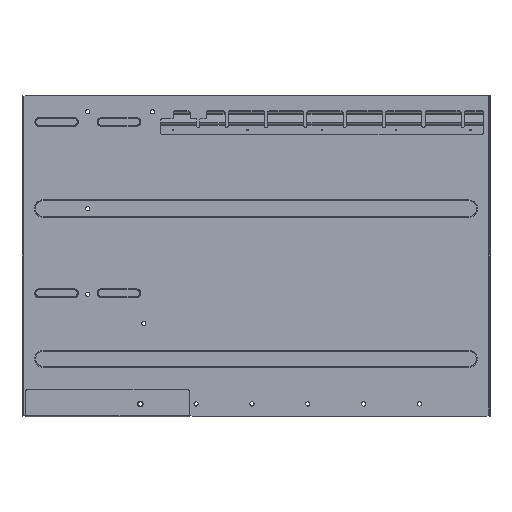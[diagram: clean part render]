
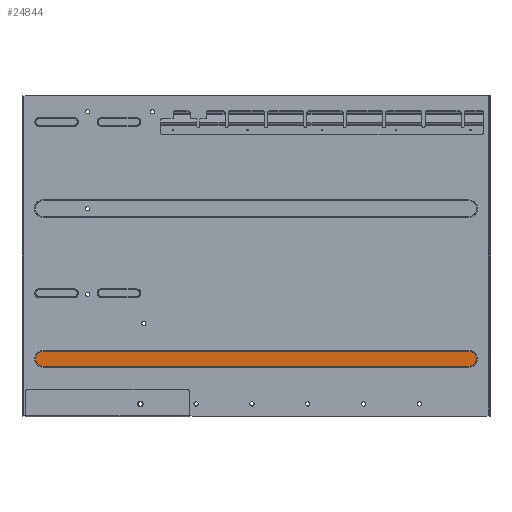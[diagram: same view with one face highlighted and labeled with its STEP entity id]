
A CAD part, front view. The second image highlights one B-rep face of the part: STEP entity #24844.
In plain terms, the highlighted planar face has unit normal (0, -1, 0).
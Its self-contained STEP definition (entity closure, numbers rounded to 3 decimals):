
#15120=CARTESIAN_POINT('',(-200.05,42.5,-247.56));
#15121=DIRECTION('',(0.,1.,0.));
#15122=DIRECTION('',(0.,0.,-1.));
#15123=AXIS2_PLACEMENT_3D('',#15120,#15121,#15122);
#15125=CARTESIAN_POINT('',(-200.127,42.5,-240.388));
#15126=CARTESIAN_POINT('',(-200.101,42.5,-240.388));
#15127=CARTESIAN_POINT('',(-200.076,42.5,
-240.388));
#15128=CARTESIAN_POINT('',(-200.05,42.5,-240.388));
#15130=DIRECTION('',(1.,0.,0.));
#15131=VECTOR('',#15130,400.1);
#15132=CARTESIAN_POINT('',(-200.05,42.5,-240.388));
#15133=LINE('',#15132,#15131);
#15134=CARTESIAN_POINT('',(200.05,42.5,-247.56));
#15135=DIRECTION('',(0.,1.,0.));
#15136=DIRECTION('',(0.,0.,1.));
#15137=AXIS2_PLACEMENT_3D('',#15134,#15135,#15136);
#15139=CARTESIAN_POINT('',(200.127,42.5,-254.732));
#15140=CARTESIAN_POINT('',(200.101,42.5,-254.732));
#15141=CARTESIAN_POINT('',(200.076,42.5,
-254.732));
#15142=CARTESIAN_POINT('',(200.05,42.5,-254.732));
#15144=DIRECTION('',(-1.,0.,0.));
#15145=VECTOR('',#15144,400.1);
#15146=CARTESIAN_POINT('',(200.05,42.5,-254.732));
#15147=LINE('',#15146,#15145);
#17374=CARTESIAN_POINT('',(-200.05,42.5,-240.388));
#17375=CARTESIAN_POINT('',(200.05,42.5,-240.388));
#17376=VERTEX_POINT('',#17374);
#17377=VERTEX_POINT('',#17375);
#17378=CARTESIAN_POINT('',(200.05,42.5,-254.732));
#17380=VERTEX_POINT('',#17378);
#17382=VERTEX_POINT('',#15139);
#17391=CARTESIAN_POINT('',(-200.05,42.5,-254.732));
#17392=VERTEX_POINT('',#17391);
#17393=VERTEX_POINT('',#15125);
#24831=CARTESIAN_POINT('',(0.,42.5,-247.56));
#24832=DIRECTION('',(0.,1.,0.));
#24833=DIRECTION('',(-1.,0.,0.));
#24834=AXIS2_PLACEMENT_3D('',#24831,#24832,#24833);
#24835=PLANE('',#24834);
#24836=ORIENTED_EDGE('',*,*,#24796,.T.);
#24837=ORIENTED_EDGE('',*,*,#24794,.T.);
#24838=ORIENTED_EDGE('',*,*,#24677,.T.);
#24839=ORIENTED_EDGE('',*,*,#24704,.T.);
#24840=ORIENTED_EDGE('',*,*,#24702,.T.);
#24841=ORIENTED_EDGE('',*,*,#24771,.T.);
#24842=EDGE_LOOP('',(#24836,#24837,#24838,#24839,#24840,#24841));
#24843=FACE_OUTER_BOUND('',#24842,.F.);
#24844=ADVANCED_FACE('',(#24843),#24835,.F.);
#15124=CIRCLE('',#15123,7.172);
#15129=B_SPLINE_CURVE_WITH_KNOTS('',3,(#15125,#15126,#15127,#15128),
.UNSPECIFIED.,.F.,.F.,(4,4),(0.,1.),.UNSPECIFIED.);
#15138=CIRCLE('',#15137,7.172);
#15143=B_SPLINE_CURVE_WITH_KNOTS('',3,(#15139,#15140,#15141,#15142),
.UNSPECIFIED.,.F.,.F.,(4,4),(0.,1.),.UNSPECIFIED.);
#24677=EDGE_CURVE('',#17376,#17377,#15133,.T.);
#24702=EDGE_CURVE('',#17382,#17380,#15143,.T.);
#24704=EDGE_CURVE('',#17377,#17382,#15138,.T.);
#24771=EDGE_CURVE('',#17380,#17392,#15147,.T.);
#24794=EDGE_CURVE('',#17393,#17376,#15129,.T.);
#24796=EDGE_CURVE('',#17392,#17393,#15124,.T.);
